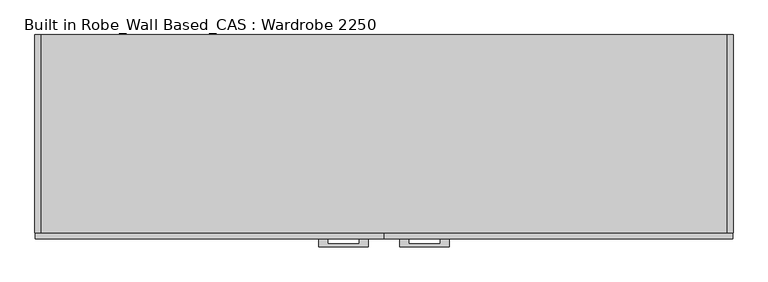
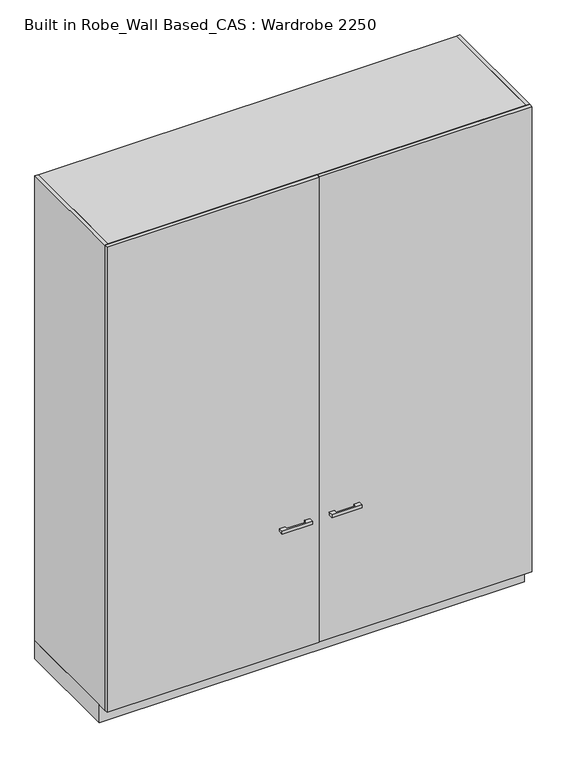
"""IFC4 building model written with IfcOpenShell, lengths in millimetres: furniture geometry, Built in Robe_Wall Based_CAS : Wardrobe 2250."""

from ifc_helpers import new_model, si_unit, point, frame, frame_2d, origin, origin_with_axes, place, context, project, spatial, polyline, circle_curve, trimmed, segment, composite_curve, outline, extrude, source, transform, mapped, element, save


def built_in_robe_wall_based_cas_wardrobe_2250_615cf236(model_context):
    return source(origin(), model_context, "Body", "SweptSolid", [
        extrude(outline(polyline([(1250.0, 11.0), (-1000.0, 11.0), (-1000.0, 600.0), (-980.0, 600.0), (-980.0, 31.0), (1230.0, 31.0), (1230.0, 600.0), (1250.0, 600.0), (1250.0, 11.0)])), origin_with_axes(), (0.0, 0.0, 1.0), 100.0),
        extrude(outline(polyline([(176.0, -84.0), (176.0, -59.0), (205.0, -59.0), (205.0, -74.0), (307.0, -74.0), (307.0, -59.0), (336.0, -59.0), (336.0, -84.0), (176.0, -84.0)])), frame((0.0, 0.0, 792.5), z_axis=(0.0, 0.0, 1.0), x_axis=(1.0, 0.0, 0.0)), (0.0, 0.0, 1.0), 15.0),
        extrude(outline(polyline([(1249.0, -59.0), (126.0, -59.0), (126.0, -39.0), (1249.0, -39.0), (1249.0, -59.0)])), frame((0.0, 0.0, 100.0), z_axis=(0.0, 0.0, 1.0), x_axis=(1.0, 0.0, 0.0)), (0.0, 0.0, 1.0), 2599.0),
        extrude(outline(polyline([(74.0, -84.0), (-86.0, -84.0), (-86.0, -59.0), (-57.0, -59.0), (-57.0, -74.0), (45.0, -74.0), (45.0, -59.0), (74.0, -59.0), (74.0, -84.0)])), frame((0.0, 0.0, 792.5), z_axis=(0.0, 0.0, 1.0), x_axis=(1.0, 0.0, 0.0)), (0.0, 0.0, 1.0), 15.0),
        extrude(outline(polyline([(-999.0, -59.0), (-999.0, -39.0), (124.0, -39.0), (124.0, -59.0), (-999.0, -59.0)])), frame((0.0, 0.0, 100.0), z_axis=(0.0, 0.0, 1.0), x_axis=(1.0, 0.0, 0.0)), (0.0, 0.0, 1.0), 2599.0),
        extrude(outline(composite_curve([segment(trimmed(circle_curve(frame_2d((260.5, 2060.0)), 37.5), [point((223.0, 2060.0))], [point((298.0, 2060.0))], False, "CARTESIAN"), True, "CONTINUOUS"), segment(trimmed(circle_curve(frame_2d((260.5, 2060.0)), 37.5), [point((298.0, 2060.0))], [point((223.0, 2060.0))], False, "CARTESIAN"), True, "CONTINUOUS")], self_intersect=False)), frame((-980.0, 0.0, 0.0), z_axis=(1.0, 0.0, 0.0), x_axis=(0.0, 1.0, 0.0)), (0.0, 0.0, 1.0), 10.0),
        extrude(outline(composite_curve([segment(trimmed(circle_curve(frame_2d((260.5, 2060.0)), 10.0), [point((270.5, 2060.0))], [point((250.5, 2060.0))], False, "CARTESIAN"), True, "CONTINUOUS"), segment(trimmed(circle_curve(frame_2d((260.5, 2060.0)), 10.0), [point((250.5, 2060.0))], [point((270.5, 2060.0))], False, "CARTESIAN"), True, "CONTINUOUS")], self_intersect=False)), frame((-970.0, 0.0, 0.0), z_axis=(1.0, 0.0, 0.0), x_axis=(0.0, 1.0, 0.0)), (0.0, 0.0, 1.0), 2190.0),
        extrude(outline(composite_curve([segment(trimmed(circle_curve(frame_2d((260.5, 2060.0)), 37.5), [point((223.0, 2060.0))], [point((298.0, 2060.0))], False, "CARTESIAN"), True, "CONTINUOUS"), segment(trimmed(circle_curve(frame_2d((260.5, 2060.0)), 37.5), [point((298.0, 2060.0))], [point((223.0, 2060.0))], False, "CARTESIAN"), True, "CONTINUOUS")], self_intersect=False)), frame((1220.0, 0.0, 0.0), z_axis=(1.0, 0.0, 0.0), x_axis=(0.0, 1.0, 0.0)), (0.0, 0.0, 1.0), 10.0),
        extrude(outline(composite_curve([segment(trimmed(circle_curve(frame_2d((260.5, 1100.0)), 37.5), [point((223.0, 1100.0))], [point((298.0, 1100.0))], False, "CARTESIAN"), True, "CONTINUOUS"), segment(trimmed(circle_curve(frame_2d((260.5, 1100.0)), 37.5), [point((298.0, 1100.0))], [point((223.0, 1100.0))], False, "CARTESIAN"), True, "CONTINUOUS")], self_intersect=False)), frame((-980.0, 0.0, 0.0), z_axis=(1.0, 0.0, 0.0), x_axis=(0.0, 1.0, 0.0)), (0.0, 0.0, 1.0), 10.0),
        extrude(outline(composite_curve([segment(trimmed(circle_curve(frame_2d((260.5, 1100.0)), 10.0), [point((270.5, 1100.0))], [point((250.5, 1100.0))], False, "CARTESIAN"), True, "CONTINUOUS"), segment(trimmed(circle_curve(frame_2d((260.5, 1100.0)), 10.0), [point((250.5, 1100.0))], [point((270.5, 1100.0))], False, "CARTESIAN"), True, "CONTINUOUS")], self_intersect=False)), frame((-970.0, 0.0, 0.0), z_axis=(1.0, 0.0, 0.0), x_axis=(0.0, 1.0, 0.0)), (0.0, 0.0, 1.0), 2190.0),
        extrude(outline(composite_curve([segment(trimmed(circle_curve(frame_2d((260.5, 1100.0)), 37.5), [point((223.0, 1100.0))], [point((298.0, 1100.0))], False, "CARTESIAN"), True, "CONTINUOUS"), segment(trimmed(circle_curve(frame_2d((260.5, 1100.0)), 37.5), [point((298.0, 1100.0))], [point((223.0, 1100.0))], False, "CARTESIAN"), True, "CONTINUOUS")], self_intersect=False)), frame((1220.0, 0.0, 0.0), z_axis=(1.0, 0.0, 0.0), x_axis=(0.0, 1.0, 0.0)), (0.0, 0.0, 1.0), 10.0),
        extrude(outline(polyline([(-980.0, 580.0), (1230.0, 580.0), (1230.0, -39.0), (-980.0, -39.0), (-980.0, 580.0)])), frame((0.0, 0.0, 100.0), z_axis=(0.0, 0.0, 1.0), x_axis=(1.0, 0.0, 0.0)), (0.0, 0.0, 1.0), 20.0),
        extrude(outline(polyline([(-980.0, 600.0), (1230.0, 600.0), (1230.0, -39.0), (-980.0, -39.0), (-980.0, 600.0)])), frame((0.0, 0.0, 2680.0), z_axis=(0.0, 0.0, 1.0), x_axis=(1.0, 0.0, 0.0)), (0.0, 0.0, 1.0), 20.0),
        extrude(outline(polyline([(-980.0, 600.0), (-980.0, -39.0), (-1000.0, -39.0), (-1000.0, 600.0), (-980.0, 600.0)])), frame((0.0, 0.0, 100.0), z_axis=(0.0, 0.0, 1.0), x_axis=(1.0, 0.0, 0.0)), (0.0, 0.0, 1.0), 2600.0),
        extrude(outline(polyline([(1250.0, 600.0), (1250.0, -39.0), (1230.0, -39.0), (1230.0, 600.0), (1250.0, 600.0)])), frame((0.0, 0.0, 100.0), z_axis=(0.0, 0.0, 1.0), x_axis=(1.0, 0.0, 0.0)), (0.0, 0.0, 1.0), 2600.0),
        extrude(outline(polyline([(-980.0, 580.0), (-980.0, 600.0), (1230.0, 600.0), (1230.0, 580.0), (-980.0, 580.0)])), frame((0.0, 0.0, 100.0), z_axis=(0.0, 0.0, 1.0), x_axis=(1.0, 0.0, 0.0)), (0.0, 0.0, 1.0), 2580.0),
    ])


if __name__ == "__main__":
    model = new_model("IFC4")
    model_context = context("Model", 3, world=origin())
    ifc_project = project(units=[si_unit("LENGTHUNIT", "METRE", prefix="MILLI")], contexts=[model_context])
    site = spatial("IfcSite", under=ifc_project)
    building = spatial("IfcBuilding", under=site)
    placement = place(None, origin())
    built_in_robe_wall_based_cas_wardrobe_2250_shape = built_in_robe_wall_based_cas_wardrobe_2250_615cf236(model_context)
    element("IfcFurniture", 1, ObjectType="Built in Robe_Wall Based_CAS : Wardrobe 2250", at=placement, inside=building, context=model_context, shape_type="MappedRepresentation", body=[
        mapped(built_in_robe_wall_based_cas_wardrobe_2250_shape, transform((0.0, 0.0, 0.0), x_axis=(1.0, 0.0, 0.0), y_axis=(0.0, 1.0, 0.0), z_axis=(0.0, 0.0, 1.0))),
    ])
    save(model, "model.ifc")
